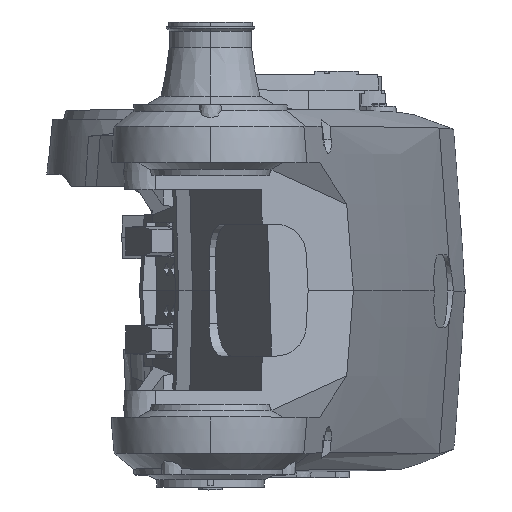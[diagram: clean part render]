
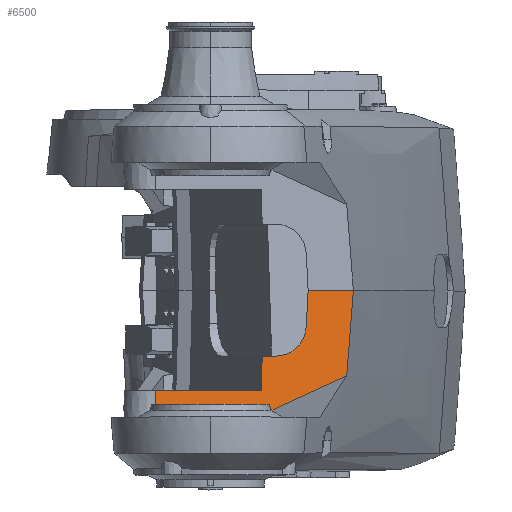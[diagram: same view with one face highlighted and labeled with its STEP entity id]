
A CAD part, top view. The second image highlights one B-rep face of the part: STEP entity #6500.
In plain terms, the highlighted planar face has unit normal (0.242, 0.035, 0.97).
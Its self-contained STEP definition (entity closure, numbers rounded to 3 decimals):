
#232 = CARTESIAN_POINT ( 'NONE',  ( 479.06, -100.014, 2075.574 ) ) ;
#770 = CARTESIAN_POINT ( 'NONE',  ( 255.72, -117.5, 2131.888 ) ) ;
#820 = CARTESIAN_POINT ( 'NONE',  ( 434., 0., 2083.209 ) ) ;
#853 = ORIENTED_EDGE ( 'NONE', *, *, #5121, .F. ) ;
#1144 = VERTEX_POINT ( 'NONE', #27453 ) ;
#1952 = VERTEX_POINT ( 'NONE', #820 ) ;
#2228 = DIRECTION ( 'NONE',  ( -0.052, -0.997, 0.049 ) ) ;
#3197 = EDGE_CURVE ( 'NONE', #16683, #8978, #6785, .T. ) ;
#3214 = DIRECTION ( 'NONE',  ( 0.884, 0.404, -0.235 ) ) ;
#4437 = VECTOR ( 'NONE', #33390, 1000. ) ;
#4494 = DIRECTION ( 'NONE',  ( 0.97, 0., -0.242 ) ) ;
#4659 = VECTOR ( 'NONE', #14322, 1000. ) ;
#5116 = VERTEX_POINT ( 'NONE', #21403 ) ;
#5121 = EDGE_CURVE ( 'NONE', #28473, #14441, #23394, .T. ) ;
#5433 = VECTOR ( 'NONE', #19578, 1000. ) ;
#5436 = LINE ( 'NONE', #31150, #9799 ) ;
#5622 = EDGE_CURVE ( 'NONE', #9969, #22472, #22331, .T. ) ;
#6130 = LINE ( 'NONE', #9184, #5433 ) ;
#6376 = ORIENTED_EDGE ( 'NONE', *, *, #28898, .F. ) ;
#6439 = CARTESIAN_POINT ( 'NONE',  ( 380.31, -77., 2099.367 ) ) ;
#6500 = ADVANCED_FACE ( 'NONE', ( #17091 ), #12136, .F. ) ;
#6542 = CARTESIAN_POINT ( 'NONE',  ( 564.204, 0., 2050.746 ) ) ;
#6755 = VECTOR ( 'NONE', #33159, 1000. ) ;
#6785 = LINE ( 'NONE', #20055, #13215 ) ;
#7238 = ORIENTED_EDGE ( 'NONE', *, *, #33571, .T. ) ;
#7962 = ORIENTED_EDGE ( 'NONE', *, *, #17325, .T. ) ;
#8461 = VERTEX_POINT ( 'NONE', #770 ) ;
#8978 = VERTEX_POINT ( 'NONE', #25514 ) ;
#9184 = CARTESIAN_POINT ( 'NONE',  ( 564.204, 0., 2050.746 ) ) ;
#9497 = EDGE_CURVE ( 'NONE', #16683, #8461, #13883, .T. ) ;
#9609 = ORIENTED_EDGE ( 'NONE', *, *, #9497, .F. ) ;
#9716 = LINE ( 'NONE', #10677, #13021 ) ;
#9799 = VECTOR ( 'NONE', #3214, 1000. ) ;
#9802 = EDGE_CURVE ( 'NONE', #8978, #14441, #5436, .T. ) ;
#9969 = VERTEX_POINT ( 'NONE', #6439 ) ;
#10082 = ORIENTED_EDGE ( 'NONE', *, *, #5622, .T. ) ;
#10652 = CARTESIAN_POINT ( 'NONE',  ( 479.06, -100.014, 2075.574 ) ) ;
#10677 = CARTESIAN_POINT ( 'NONE',  ( 434.439, 8.373, 2082.798 ) ) ;
#12136 = PLANE ( 'NONE',  #22574 ) ;
#12384 = LINE ( 'NONE', #22781, #6755 ) ;
#13021 = VECTOR ( 'NONE', #2228, 1000. ) ;
#13215 = VECTOR ( 'NONE', #17159, 1000. ) ;
#13883 = LINE ( 'NONE', #29558, #16673 ) ;
#14322 = DIRECTION ( 'NONE',  ( -0.02, -0.999, 0.041 ) ) ;
#14441 = VERTEX_POINT ( 'NONE', #232 ) ;
#15541 = ORIENTED_EDGE ( 'NONE', *, *, #18804, .F. ) ;
#15962 = CARTESIAN_POINT ( 'NONE',  ( 430.674, -63.466, 2086.323 ) ) ;
#16433 = EDGE_LOOP ( 'NONE', ( #15541, #7962, #6376, #7238, #10082, #18092, #9609, #29612, #31715, #853 ) ) ;
#16605 = DIRECTION ( 'NONE',  ( -0.008, 0.999, -0.034 ) ) ;
#16673 = VECTOR ( 'NONE', #16605, 1000. ) ;
#16683 = VERTEX_POINT ( 'NONE', #22682 ) ;
#17091 = FACE_OUTER_BOUND ( 'NONE', #16433, .T. ) ;
#17159 = DIRECTION ( 'NONE',  ( 0.97, 0., -0.242 ) ) ;
#17325 = EDGE_CURVE ( 'NONE', #1952, #5116, #9716, .T. ) ;
#18092 = ORIENTED_EDGE ( 'NONE', *, *, #26474, .F. ) ;
#18492 = CARTESIAN_POINT ( 'NONE',  ( 484.543, -33.373, 2071.808 ) ) ;
#18804 = EDGE_CURVE ( 'NONE', #1952, #28473, #6130, .T. ) ;
#19332 = CARTESIAN_POINT ( 'NONE',  ( 396.751, -77., 2095.268 ) ) ;
#19578 = DIRECTION ( 'NONE',  ( 0.97, 0., -0.242 ) ) ;
#19987 = DIRECTION ( 'NONE',  ( -0.242, -0.035, -0.97 ) ) ;
#20055 = CARTESIAN_POINT ( 'NONE',  ( 565.458, -148.5, 2055.777 ) ) ;
#21403 = CARTESIAN_POINT ( 'NONE',  ( 431.703, -43.832, 2085.359 ) ) ;
#21720 = CARTESIAN_POINT ( 'NONE',  ( 416.412, -77., 2090.365 ) ) ;
#22331 = LINE ( 'NONE', #30309, #4659 ) ;
#22472 = VERTEX_POINT ( 'NONE', #27160 ) ;
#22574 = AXIS2_PLACEMENT_3D ( 'NONE', #6542, #19987, #4494 ) ;
#22682 = CARTESIAN_POINT ( 'NONE',  ( 255.982, -148.5, 2132.939 ) ) ;
#22781 = CARTESIAN_POINT ( 'NONE',  ( 565.196, -117.5, 2054.727 ) ) ;
#23394 = B_SPLINE_CURVE_WITH_KNOTS ( 'NONE', 3,
 ( #23601, #18492, #23766, #10652 ),
 .UNSPECIFIED., .F., .F.,
 ( 4, 4 ),
 ( 0., 0.1 ),
 .UNSPECIFIED. ) ;
#23601 = CARTESIAN_POINT ( 'NONE',  ( 486.74, 0., 2070.06 ) ) ;
#23766 = CARTESIAN_POINT ( 'NONE',  ( 481.983, -66.711, 2073.647 ) ) ;
#25514 = CARTESIAN_POINT ( 'NONE',  ( 372.951, -148.5, 2103.775 ) ) ;
#26474 = EDGE_CURVE ( 'NONE', #8461, #22472, #12384, .T. ) ;
#27160 = CARTESIAN_POINT ( 'NONE',  ( 379.48, -117.5, 2101.031 ) ) ;
#27453 = CARTESIAN_POINT ( 'NONE',  ( 396.751, -77., 2095.268 ) ) ;
#28076 =( BOUNDED_CURVE ( )  B_SPLINE_CURVE ( 3, ( #19332, #21720, #15962, #32598 ),
 .UNSPECIFIED., .F., .F. ) 
 B_SPLINE_CURVE_WITH_KNOTS ( ( 4, 4 ),
 ( 4.569, 6.087 ),
 .UNSPECIFIED. ) 
 CURVE ( )  GEOMETRIC_REPRESENTATION_ITEM ( )  RATIONAL_B_SPLINE_CURVE ( ( 1., 0.817, 0.817, 1. ) ) 
 REPRESENTATION_ITEM ( '' )  );
#28117 = LINE ( 'NONE', #31018, #4437 ) ;
#28317 = CARTESIAN_POINT ( 'NONE',  ( 486.74, 0., 2070.06 ) ) ;
#28473 = VERTEX_POINT ( 'NONE', #28317 ) ;
#28898 = EDGE_CURVE ( 'NONE', #1144, #5116, #28076, .T. ) ;
#29558 = CARTESIAN_POINT ( 'NONE',  ( 254.727, 0., 2127.907 ) ) ;
#29612 = ORIENTED_EDGE ( 'NONE', *, *, #3197, .T. ) ;
#30309 = CARTESIAN_POINT ( 'NONE',  ( 382.002, 5.592, 2095.972 ) ) ;
#31018 = CARTESIAN_POINT ( 'NONE',  ( 564.854, -77., 2053.355 ) ) ;
#31150 = CARTESIAN_POINT ( 'NONE',  ( 586.485, -50.926, 2047.023 ) ) ;
#31715 = ORIENTED_EDGE ( 'NONE', *, *, #9802, .T. ) ;
#32598 = CARTESIAN_POINT ( 'NONE',  ( 431.703, -43.832, 2085.359 ) ) ;
#33159 = DIRECTION ( 'NONE',  ( 0.97, 0., -0.242 ) ) ;
#33390 = DIRECTION ( 'NONE',  ( -0.97, 0., 0.242 ) ) ;
#33571 = EDGE_CURVE ( 'NONE', #1144, #9969, #28117, .T. ) ;
